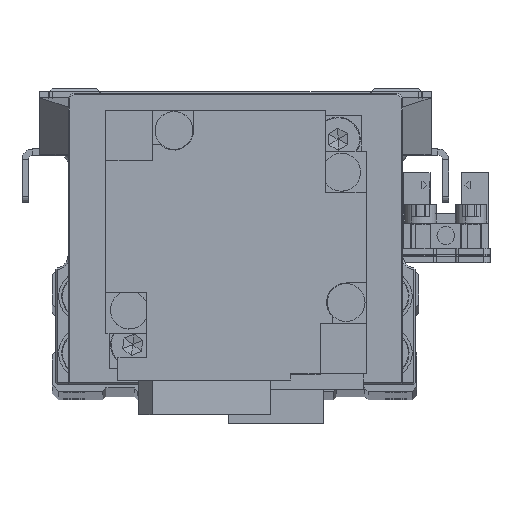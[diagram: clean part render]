
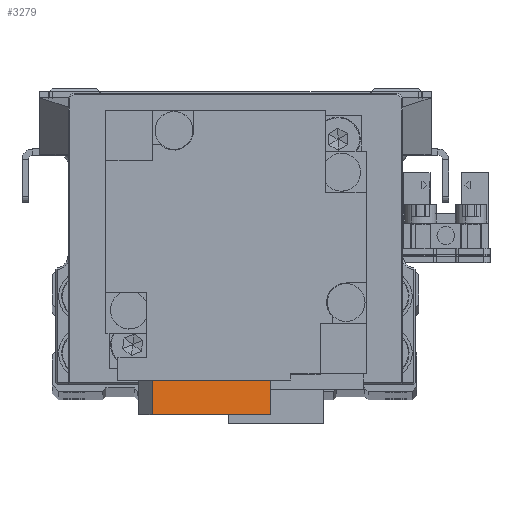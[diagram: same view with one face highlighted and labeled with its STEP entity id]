
A CAD part, top view. The second image highlights one B-rep face of the part: STEP entity #3279.
In plain terms, the highlighted planar face has unit normal (0.156, 0, 0.988) as drawn and (-0.156, 0, -0.988) by its records, which use the part's own axes.
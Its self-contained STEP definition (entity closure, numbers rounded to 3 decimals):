
#1270 = VERTEX_POINT ( 'NONE', #2487 ) ;
#2484 = VECTOR ( 'NONE', #18764, 1000. ) ;
#2487 = CARTESIAN_POINT ( 'NONE',  ( 13.183, -27.5, -79.096 ) ) ;
#3279 = ADVANCED_FACE ( 'NONE', ( #22726 ), #35509, .F. ) ;
#5632 = EDGE_CURVE ( 'NONE', #9740, #1270, #12260, .T. ) ;
#6001 = CARTESIAN_POINT ( 'NONE',  ( -5.583, -24.75, -76.124 ) ) ;
#6359 = AXIS2_PLACEMENT_3D ( 'NONE', #6821, #19576, #32363 ) ;
#6464 = EDGE_CURVE ( 'NONE', #24281, #26128, #14680, .T. ) ;
#6821 = CARTESIAN_POINT ( 'NONE',  ( 3.8, -24.75, -77.61 ) ) ;
#9184 = VECTOR ( 'NONE', #37801, 1000. ) ;
#9465 = ORIENTED_EDGE ( 'NONE', *, *, #5632, .F. ) ;
#9740 = VERTEX_POINT ( 'NONE', #40908 ) ;
#12260 = LINE ( 'NONE', #25027, #9184 ) ;
#12829 = LINE ( 'NONE', #25595, #33098 ) ;
#14041 = ORIENTED_EDGE ( 'NONE', *, *, #6464, .T. ) ;
#14680 = LINE ( 'NONE', #27455, #23933 ) ;
#17028 = CARTESIAN_POINT ( 'NONE',  ( -5.583, -22., -76.124 ) ) ;
#18764 = DIRECTION ( 'NONE',  ( 0., -1., 0. ) ) ;
#19576 = DIRECTION ( 'NONE',  ( 0.156, 0., 0.988 ) ) ;
#22726 = FACE_OUTER_BOUND ( 'NONE', #33776, .T. ) ;
#23933 = VECTOR ( 'NONE', #40219, 1000. ) ;
#24281 = VERTEX_POINT ( 'NONE', #17028 ) ;
#24296 = CARTESIAN_POINT ( 'NONE',  ( 13.183, -22., -79.096 ) ) ;
#25027 = CARTESIAN_POINT ( 'NONE',  ( 3.8, -27.5, -77.61 ) ) ;
#25595 = CARTESIAN_POINT ( 'NONE',  ( 13.183, -24.75, -79.096 ) ) ;
#26128 = VERTEX_POINT ( 'NONE', #24296 ) ;
#27455 = CARTESIAN_POINT ( 'NONE',  ( -5.583, -22., -76.124 ) ) ;
#31149 = EDGE_CURVE ( 'NONE', #1270, #26128, #12829, .T. ) ;
#32363 = DIRECTION ( 'NONE',  ( 0.988, 0., -0.156 ) ) ;
#33098 = VECTOR ( 'NONE', #38368, 1000. ) ;
#33434 = EDGE_CURVE ( 'NONE', #24281, #9740, #34693, .T. ) ;
#33776 = EDGE_LOOP ( 'NONE', ( #39106, #9465, #35011, #14041 ) ) ;
#34693 = LINE ( 'NONE', #6001, #2484 ) ;
#35011 = ORIENTED_EDGE ( 'NONE', *, *, #33434, .F. ) ;
#35509 = PLANE ( 'NONE',  #6359 ) ;
#37801 = DIRECTION ( 'NONE',  ( 0.988, 0., -0.156 ) ) ;
#38368 = DIRECTION ( 'NONE',  ( 0., 1., 0. ) ) ;
#39106 = ORIENTED_EDGE ( 'NONE', *, *, #31149, .F. ) ;
#40219 = DIRECTION ( 'NONE',  ( 0.988, 0., -0.156 ) ) ;
#40908 = CARTESIAN_POINT ( 'NONE',  ( -5.583, -27.5, -76.124 ) ) ;
